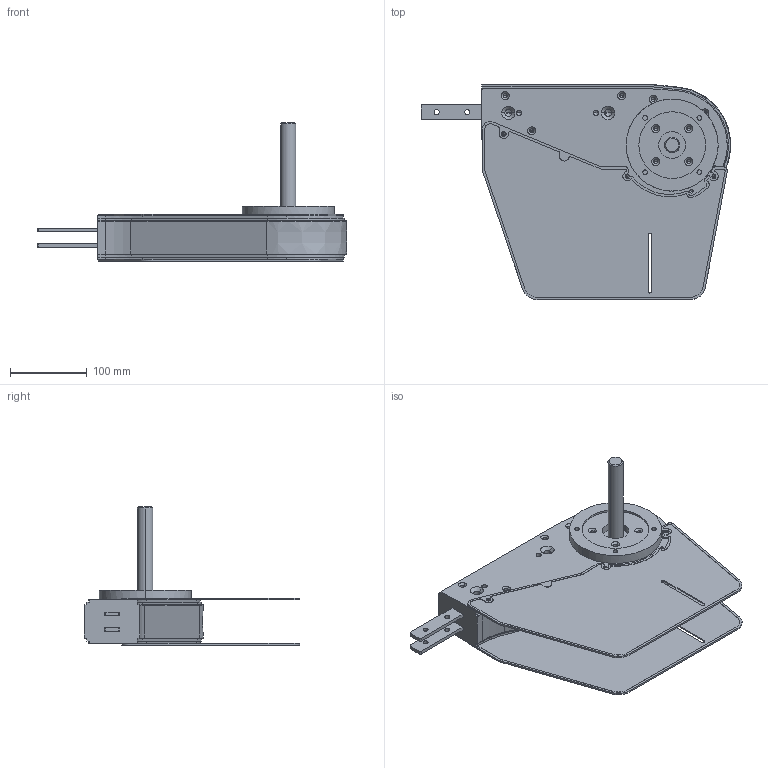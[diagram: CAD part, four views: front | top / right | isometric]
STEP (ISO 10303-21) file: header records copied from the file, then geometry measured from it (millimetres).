
FILE_DESCRIPTION (( 'STEP AP214' ), '1' );
FILE_NAME ('FKDD 320 0R.step', '2017-04-07T11:07:01', ( '' ), ( '' ), 'SwSTEP 2.0', 'SolidWorks 2016', '' );
FILE_SCHEMA (( 'AUTOMOTIVE_DESIGN' ));
Length unit declared in the file: millimetre
Products named in the file (1): FKDD 320 0R
Bounding box: 403.49 x 280.6 x 180.4 mm (x, y, z)
Volume: 2363513.6 mm3; surface area: 352037.5 mm2
Topology: 2 solids, 2 shells, 608 faces, 1611 edges, 978 vertices
Faces by surface type: cylinder 285, plane 180, cone 138, bspline 3, torus 2
Entity records: 21422 total; most frequent: CARTESIAN_POINT 3431, DIRECTION 3405, ORIENTED_EDGE 3070, EDGE_CURVE 1535, AXIS2_PLACEMENT_3D 1272, VERTEX_POINT 978, VECTOR 861, LINE 861
